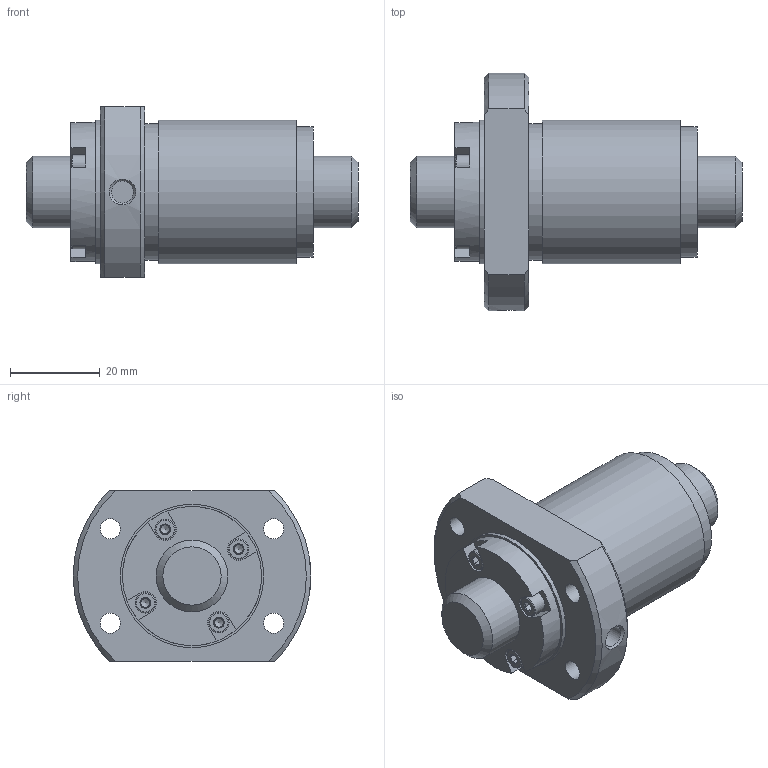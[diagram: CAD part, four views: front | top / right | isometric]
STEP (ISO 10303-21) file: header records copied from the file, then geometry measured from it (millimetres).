
FILE_DESCRIPTION(/* description */ ('STEP AP203'),/* implementation_level */ '2;1');
FILE_NAME(/* name */ 'BLK1616-2.8G1+74LC3_N0_1300',/* time_stamp */ '2025-01-16T07:04:29+01:00',/* author */ ('License CC BY-ND 4.0'),/* organization */ ('CADENAS'),/* preprocessor_version */ 'ST-DEVELOPER v19.3',/* originating_system */ 'PARTsolutions',/* authorisation */ ' ');
FILE_SCHEMA (('CONFIG_CONTROL_DESIGN'));
Length unit declared in the file: millimetre
Products named in the file (3): BLK1616-2.8G1+74LC3_N0_1300; N0130BLK1616-2.80Shaft; NRR0130BLK1616-2.8Nut
Assembly tree (2 placements, depth 2):
  BLK1616-2.8G1+74LC3_N0_1300
    N0130BLK1616-2.80Shaft
    NRR0130BLK1616-2.8Nut
Bounding box: 74 x 53 x 38 mm (x, y, z)
Volume: 55248.5 mm3; surface area: 17062 mm2
Topology: 2 solids, 2 shells, 121 faces, 287 edges, 180 vertices
Faces by surface type: plane 76, cylinder 26, cone 15, torus 4
Full cylindrical faces by diameter (mm): 2 x4, 4.5 x8, 4.917 x1, 16 x2, 29 x1, 30.4 x1, 31 x1, 32 x2
Entity records: 3336 total; most frequent: CARTESIAN_POINT 662, DIRECTION 546, ORIENTED_EDGE 476, EDGE_CURVE 238, AXIS2_PLACEMENT_3D 217, FACE_BOUND 180, EDGE_LOOP 176, VERTEX_POINT 170
